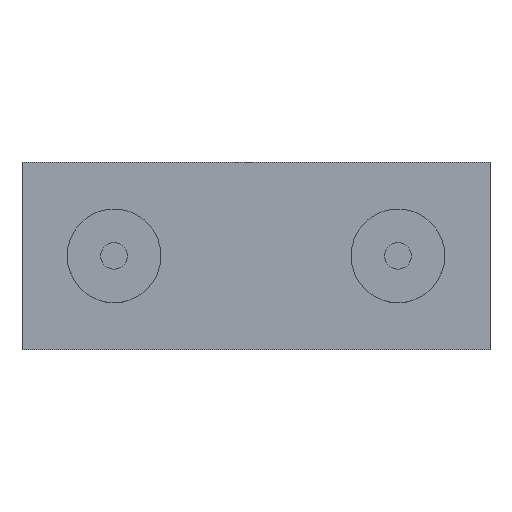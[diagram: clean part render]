
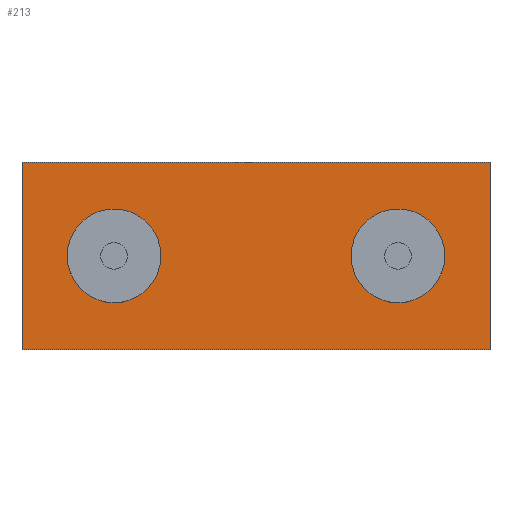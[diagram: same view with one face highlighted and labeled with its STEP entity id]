
A CAD part, top view. The second image highlights one B-rep face of the part: STEP entity #213.
In plain terms, the highlighted planar face has unit normal (0, 0, 1).
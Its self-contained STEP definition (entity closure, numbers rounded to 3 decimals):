
#24 = VERTEX_POINT('',#25);
#25 = CARTESIAN_POINT('',(-15.,-6.,3.));
#32 = PLANE('',#33);
#33 = AXIS2_PLACEMENT_3D('',#34,#35,#36);
#34 = CARTESIAN_POINT('',(-15.,-6.,0.));
#35 = DIRECTION('',(1.,0.,-0.));
#36 = DIRECTION('',(0.,0.,1.));
#44 = PLANE('',#45);
#45 = AXIS2_PLACEMENT_3D('',#46,#47,#48);
#46 = CARTESIAN_POINT('',(-15.,-6.,0.));
#47 = DIRECTION('',(-0.,1.,0.));
#48 = DIRECTION('',(0.,0.,1.));
#85 = VERTEX_POINT('',#86);
#86 = CARTESIAN_POINT('',(-15.,6.,3.));
#100 = PLANE('',#101);
#101 = AXIS2_PLACEMENT_3D('',#102,#103,#104);
#102 = CARTESIAN_POINT('',(-15.,6.,0.));
#103 = DIRECTION('',(-0.,1.,0.));
#104 = DIRECTION('',(0.,0.,1.));
#112 = EDGE_CURVE('',#24,#85,#113,.T.);
#113 = SURFACE_CURVE('',#114,(#118,#125),.PCURVE_S1.);
#114 = LINE('',#115,#116);
#115 = CARTESIAN_POINT('',(-15.,-6.,3.));
#116 = VECTOR('',#117,1.);
#117 = DIRECTION('',(-0.,1.,0.));
#118 = PCURVE('',#32,#119);
#119 = DEFINITIONAL_REPRESENTATION('',(#120),#124);
#120 = LINE('',#121,#122);
#121 = CARTESIAN_POINT('',(3.,0.));
#122 = VECTOR('',#123,1.);
#123 = DIRECTION('',(0.,-1.));
#124 = ( GEOMETRIC_REPRESENTATION_CONTEXT(2) 
PARAMETRIC_REPRESENTATION_CONTEXT() REPRESENTATION_CONTEXT('2D SPACE',''
  ) );
#125 = PCURVE('',#126,#131);
#126 = PLANE('',#127);
#127 = AXIS2_PLACEMENT_3D('',#128,#129,#130);
#128 = CARTESIAN_POINT('',(-15.,-6.,3.));
#129 = DIRECTION('',(0.,0.,1.));
#130 = DIRECTION('',(1.,0.,-0.));
#131 = DEFINITIONAL_REPRESENTATION('',(#132),#136);
#132 = LINE('',#133,#134);
#133 = CARTESIAN_POINT('',(0.,0.));
#134 = VECTOR('',#135,1.);
#135 = DIRECTION('',(0.,1.));
#136 = ( GEOMETRIC_REPRESENTATION_CONTEXT(2) 
PARAMETRIC_REPRESENTATION_CONTEXT() REPRESENTATION_CONTEXT('2D SPACE',''
  ) );
#165 = EDGE_CURVE('',#24,#166,#168,.T.);
#166 = VERTEX_POINT('',#167);
#167 = CARTESIAN_POINT('',(15.,-6.,3.));
#168 = SURFACE_CURVE('',#169,(#173,#180),.PCURVE_S1.);
#169 = LINE('',#170,#171);
#170 = CARTESIAN_POINT('',(-15.,-6.,3.));
#171 = VECTOR('',#172,1.);
#172 = DIRECTION('',(1.,0.,-0.));
#173 = PCURVE('',#44,#174);
#174 = DEFINITIONAL_REPRESENTATION('',(#175),#179);
#175 = LINE('',#176,#177);
#176 = CARTESIAN_POINT('',(3.,0.));
#177 = VECTOR('',#178,1.);
#178 = DIRECTION('',(0.,1.));
#179 = ( GEOMETRIC_REPRESENTATION_CONTEXT(2) 
PARAMETRIC_REPRESENTATION_CONTEXT() REPRESENTATION_CONTEXT('2D SPACE',''
  ) );
#180 = PCURVE('',#126,#181);
#181 = DEFINITIONAL_REPRESENTATION('',(#182),#186);
#182 = LINE('',#183,#184);
#183 = CARTESIAN_POINT('',(0.,0.));
#184 = VECTOR('',#185,1.);
#185 = DIRECTION('',(1.,0.));
#186 = ( GEOMETRIC_REPRESENTATION_CONTEXT(2) 
PARAMETRIC_REPRESENTATION_CONTEXT() REPRESENTATION_CONTEXT('2D SPACE',''
  ) );
#202 = PLANE('',#203);
#203 = AXIS2_PLACEMENT_3D('',#204,#205,#206);
#204 = CARTESIAN_POINT('',(15.,-6.,0.));
#205 = DIRECTION('',(1.,0.,-0.));
#206 = DIRECTION('',(0.,0.,1.));
#213 = ADVANCED_FACE('',(#214,#262,#293),#126,.T.);
#214 = FACE_BOUND('',#215,.T.);
#215 = EDGE_LOOP('',(#216,#217,#218,#241));
#216 = ORIENTED_EDGE('',*,*,#112,.F.);
#217 = ORIENTED_EDGE('',*,*,#165,.T.);
#218 = ORIENTED_EDGE('',*,*,#219,.T.);
#219 = EDGE_CURVE('',#166,#220,#222,.T.);
#220 = VERTEX_POINT('',#221);
#221 = CARTESIAN_POINT('',(15.,6.,3.));
#222 = SURFACE_CURVE('',#223,(#227,#234),.PCURVE_S1.);
#223 = LINE('',#224,#225);
#224 = CARTESIAN_POINT('',(15.,-6.,3.));
#225 = VECTOR('',#226,1.);
#226 = DIRECTION('',(-0.,1.,0.));
#227 = PCURVE('',#126,#228);
#228 = DEFINITIONAL_REPRESENTATION('',(#229),#233);
#229 = LINE('',#230,#231);
#230 = CARTESIAN_POINT('',(30.,0.));
#231 = VECTOR('',#232,1.);
#232 = DIRECTION('',(0.,1.));
#233 = ( GEOMETRIC_REPRESENTATION_CONTEXT(2) 
PARAMETRIC_REPRESENTATION_CONTEXT() REPRESENTATION_CONTEXT('2D SPACE',''
  ) );
#234 = PCURVE('',#202,#235);
#235 = DEFINITIONAL_REPRESENTATION('',(#236),#240);
#236 = LINE('',#237,#238);
#237 = CARTESIAN_POINT('',(3.,0.));
#238 = VECTOR('',#239,1.);
#239 = DIRECTION('',(0.,-1.));
#240 = ( GEOMETRIC_REPRESENTATION_CONTEXT(2) 
PARAMETRIC_REPRESENTATION_CONTEXT() REPRESENTATION_CONTEXT('2D SPACE',''
  ) );
#241 = ORIENTED_EDGE('',*,*,#242,.F.);
#242 = EDGE_CURVE('',#85,#220,#243,.T.);
#243 = SURFACE_CURVE('',#244,(#248,#255),.PCURVE_S1.);
#244 = LINE('',#245,#246);
#245 = CARTESIAN_POINT('',(-15.,6.,3.));
#246 = VECTOR('',#247,1.);
#247 = DIRECTION('',(1.,0.,-0.));
#248 = PCURVE('',#126,#249);
#249 = DEFINITIONAL_REPRESENTATION('',(#250),#254);
#250 = LINE('',#251,#252);
#251 = CARTESIAN_POINT('',(0.,12.));
#252 = VECTOR('',#253,1.);
#253 = DIRECTION('',(1.,0.));
#254 = ( GEOMETRIC_REPRESENTATION_CONTEXT(2) 
PARAMETRIC_REPRESENTATION_CONTEXT() REPRESENTATION_CONTEXT('2D SPACE',''
  ) );
#255 = PCURVE('',#100,#256);
#256 = DEFINITIONAL_REPRESENTATION('',(#257),#261);
#257 = LINE('',#258,#259);
#258 = CARTESIAN_POINT('',(3.,0.));
#259 = VECTOR('',#260,1.);
#260 = DIRECTION('',(0.,1.));
#261 = ( GEOMETRIC_REPRESENTATION_CONTEXT(2) 
PARAMETRIC_REPRESENTATION_CONTEXT() REPRESENTATION_CONTEXT('2D SPACE',''
  ) );
#262 = FACE_BOUND('',#263,.T.);
#263 = EDGE_LOOP('',(#264));
#264 = ORIENTED_EDGE('',*,*,#265,.F.);
#265 = EDGE_CURVE('',#266,#266,#268,.T.);
#266 = VERTEX_POINT('',#267);
#267 = CARTESIAN_POINT('',(-6.1,0.,3.));
#268 = SURFACE_CURVE('',#269,(#274,#281),.PCURVE_S1.);
#269 = CIRCLE('',#270,3.);
#270 = AXIS2_PLACEMENT_3D('',#271,#272,#273);
#271 = CARTESIAN_POINT('',(-9.1,0.,3.));
#272 = DIRECTION('',(0.,0.,1.));
#273 = DIRECTION('',(1.,0.,-0.));
#274 = PCURVE('',#126,#275);
#275 = DEFINITIONAL_REPRESENTATION('',(#276),#280);
#276 = CIRCLE('',#277,3.);
#277 = AXIS2_PLACEMENT_2D('',#278,#279);
#278 = CARTESIAN_POINT('',(5.9,6.));
#279 = DIRECTION('',(1.,0.));
#280 = ( GEOMETRIC_REPRESENTATION_CONTEXT(2) 
PARAMETRIC_REPRESENTATION_CONTEXT() REPRESENTATION_CONTEXT('2D SPACE',''
  ) );
#281 = PCURVE('',#282,#287);
#282 = CYLINDRICAL_SURFACE('',#283,3.);
#283 = AXIS2_PLACEMENT_3D('',#284,#285,#286);
#284 = CARTESIAN_POINT('',(-9.1,0.,3.));
#285 = DIRECTION('',(0.,0.,1.));
#286 = DIRECTION('',(1.,0.,-0.));
#287 = DEFINITIONAL_REPRESENTATION('',(#288),#292);
#288 = LINE('',#289,#290);
#289 = CARTESIAN_POINT('',(0.,0.));
#290 = VECTOR('',#291,1.);
#291 = DIRECTION('',(1.,0.));
#292 = ( GEOMETRIC_REPRESENTATION_CONTEXT(2) 
PARAMETRIC_REPRESENTATION_CONTEXT() REPRESENTATION_CONTEXT('2D SPACE',''
  ) );
#293 = FACE_BOUND('',#294,.T.);
#294 = EDGE_LOOP('',(#295));
#295 = ORIENTED_EDGE('',*,*,#296,.F.);
#296 = EDGE_CURVE('',#297,#297,#299,.T.);
#297 = VERTEX_POINT('',#298);
#298 = CARTESIAN_POINT('',(12.1,0.,3.));
#299 = SURFACE_CURVE('',#300,(#305,#312),.PCURVE_S1.);
#300 = CIRCLE('',#301,3.);
#301 = AXIS2_PLACEMENT_3D('',#302,#303,#304);
#302 = CARTESIAN_POINT('',(9.1,0.,3.));
#303 = DIRECTION('',(0.,0.,1.));
#304 = DIRECTION('',(1.,0.,-0.));
#305 = PCURVE('',#126,#306);
#306 = DEFINITIONAL_REPRESENTATION('',(#307),#311);
#307 = CIRCLE('',#308,3.);
#308 = AXIS2_PLACEMENT_2D('',#309,#310);
#309 = CARTESIAN_POINT('',(24.1,6.));
#310 = DIRECTION('',(1.,0.));
#311 = ( GEOMETRIC_REPRESENTATION_CONTEXT(2) 
PARAMETRIC_REPRESENTATION_CONTEXT() REPRESENTATION_CONTEXT('2D SPACE',''
  ) );
#312 = PCURVE('',#313,#318);
#313 = CYLINDRICAL_SURFACE('',#314,3.);
#314 = AXIS2_PLACEMENT_3D('',#315,#316,#317);
#315 = CARTESIAN_POINT('',(9.1,0.,3.));
#316 = DIRECTION('',(0.,0.,1.));
#317 = DIRECTION('',(1.,0.,-0.));
#318 = DEFINITIONAL_REPRESENTATION('',(#319),#323);
#319 = LINE('',#320,#321);
#320 = CARTESIAN_POINT('',(0.,0.));
#321 = VECTOR('',#322,1.);
#322 = DIRECTION('',(1.,0.));
#323 = ( GEOMETRIC_REPRESENTATION_CONTEXT(2) 
PARAMETRIC_REPRESENTATION_CONTEXT() REPRESENTATION_CONTEXT('2D SPACE',''
  ) );
